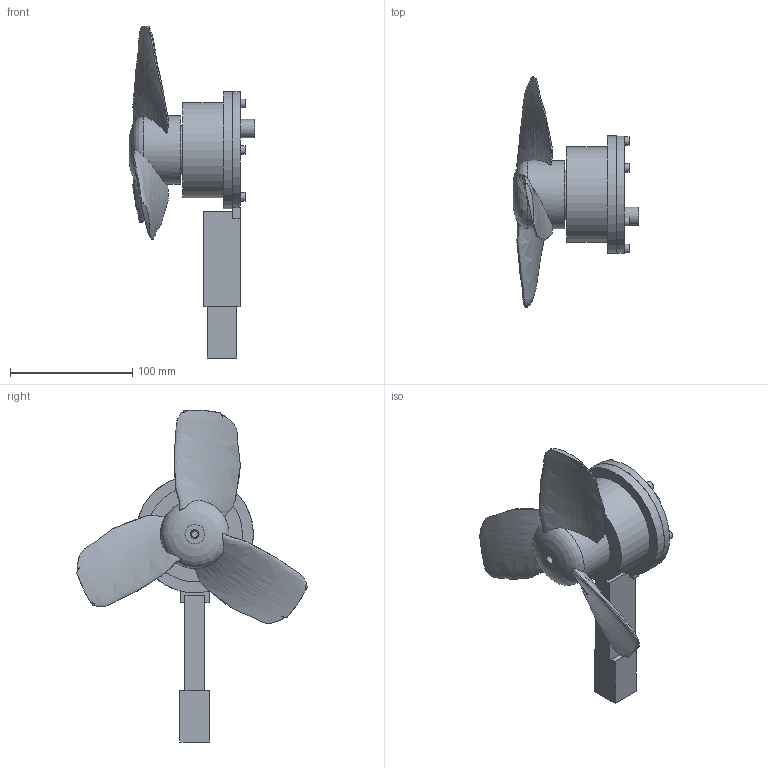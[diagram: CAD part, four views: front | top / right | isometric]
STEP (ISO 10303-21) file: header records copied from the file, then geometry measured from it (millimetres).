
FILE_DESCRIPTION(('Open CASCADE Model'),'2;1');
FILE_NAME('Open CASCADE Shape Model','2026-11-03T01:23:16',('Author'),( 'Open CASCADE'),'Open CASCADE STEP processor 7.9','Open CASCADE 7.9' ,'Unknown');
FILE_SCHEMA(('AUTOMOTIVE_DESIGN { 1 0 10303 214 1 1 1 1 }'));
Length unit declared in the file: millimetre
Products named in the file (33): v5_simple; rotor; sleeve; housing; mount; adapter; seal; bearing; motor; rotor_bolt; rotor_nut; bell_screw_0; bell_screw_1; bell_screw_2; bell_screw_3; plate_screw_0; insert_0; plate_screw_1; insert_1; plate_screw_2; insert_2; plate_screw_3; insert_3; plate_screw_4; insert_4; plate_screw_5; insert_5; base_screw_0; base_screw_1; base_screw_2; base_screw_3; gland; oring
Assembly tree (32 placements, depth 2):
  v5_simple
    rotor
    sleeve
    housing
    mount
    adapter
    seal
    bearing
    motor
    rotor_bolt
    rotor_nut
    bell_screw_0
    bell_screw_1
    bell_screw_2
    bell_screw_3
    plate_screw_0
    insert_0
    plate_screw_1
    insert_1
    plate_screw_2
    insert_2
    plate_screw_3
    insert_3
    plate_screw_4
    insert_4
    plate_screw_5
    insert_5
    base_screw_0
    base_screw_1
    base_screw_2
    base_screw_3
    gland
    oring
Bounding box: 102.8 x 188.91 x 271.6 mm (x, y, z)
Volume: 422548.6 mm3; surface area: 145871.5 mm2
Topology: 36 solids, 36 shells, 285 faces, 510 edges, 335 vertices
Faces by surface type: plane 156, cylinder 112, bspline 15, revolution 1, torus 1
Full cylindrical faces by diameter (mm): 2.5 x4, 2.7 x4, 3 x5, 3.1 x1, 3.4 x6, 4 x6, 4.1 x6, 4.4 x6, 4.5 x4, 5.5 x9, 5.58 x6, 5.6 x6, 7 x7, 8 x4, 10 x2, 11.5 x1, 12 x3, 12.4 x1, 12.5 x1, 14 x1, 15 x1, 16.2 x1, 20 x2, 28 x3, 40 x1, 42 x1, 46 x1, 56 x1, 69 x1, 70 x1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
Entity records: 37567 total; most frequent: CARTESIAN_POINT 25713, DIRECTION 2169, ORIENTED_EDGE 1016, PCURVE 1016, DEFINITIONAL_REPRESENTATION 1016, LINE 890, VECTOR 890, AXIS2_PLACEMENT_3D 538
